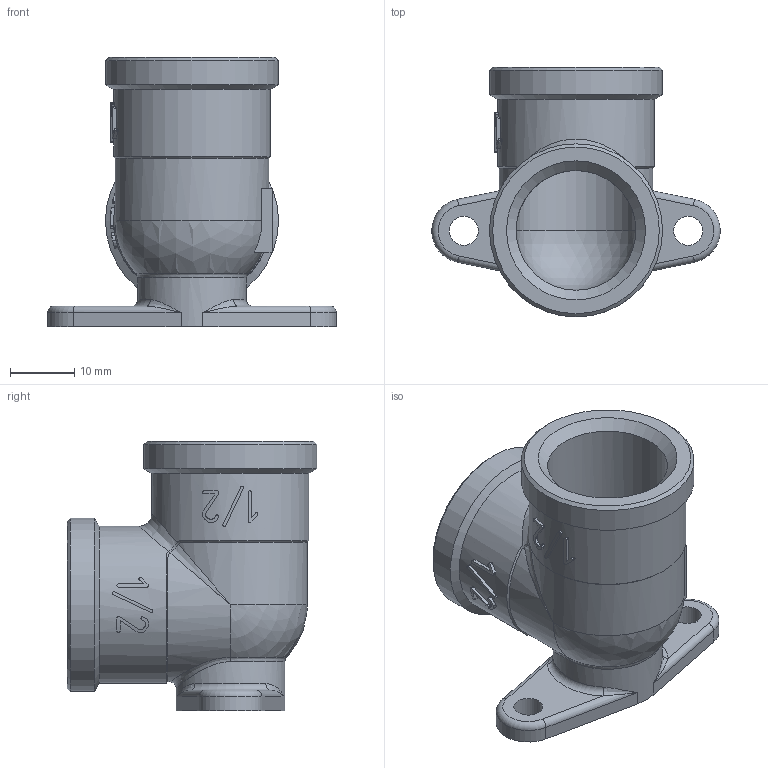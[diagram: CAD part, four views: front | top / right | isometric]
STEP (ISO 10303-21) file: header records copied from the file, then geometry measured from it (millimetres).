
FILE_DESCRIPTION(('STEP AP203'), '1');
FILE_NAME('ÂÐ.731244.004 - VTr.751.N.0004 Îòâîä 90 ãð. ñ êðåï', '', ('UNSPECIFIED'), ('UNSPECIFIED'), 'C3D Converter', 'C3D Toolkit', '');
FILE_SCHEMA(('CONFIG_CONTROL_DESIGN'));
Length unit declared in the file: millimetre
Products named in the file (1): ВР.731244.004
Bounding box: 45 x 39 x 42 mm (x, y, z)
Volume: 12547 mm3; surface area: 8590.2 mm2
Topology: 1 solids, 1 shells, 189 faces, 533 edges, 349 vertices
Faces by surface type: extrusion 84, plane 56, cylinder 24, bspline 11, cone 8, torus 4, sphere 2
Full cylindrical faces by diameter (mm): 4.5 x2, 17 x1, 18.68 x2, 24.5 x2, 27 x2
Entity records: 9534 total; most frequent: CARTESIAN_POINT 5198, ORIENTED_EDGE 1002, DIRECTION 609, EDGE_CURVE 501, VERTEX_POINT 337, B_SPLINE_CURVE_WITH_KNOTS 290, VECTOR 267, EDGE_LOOP 218
